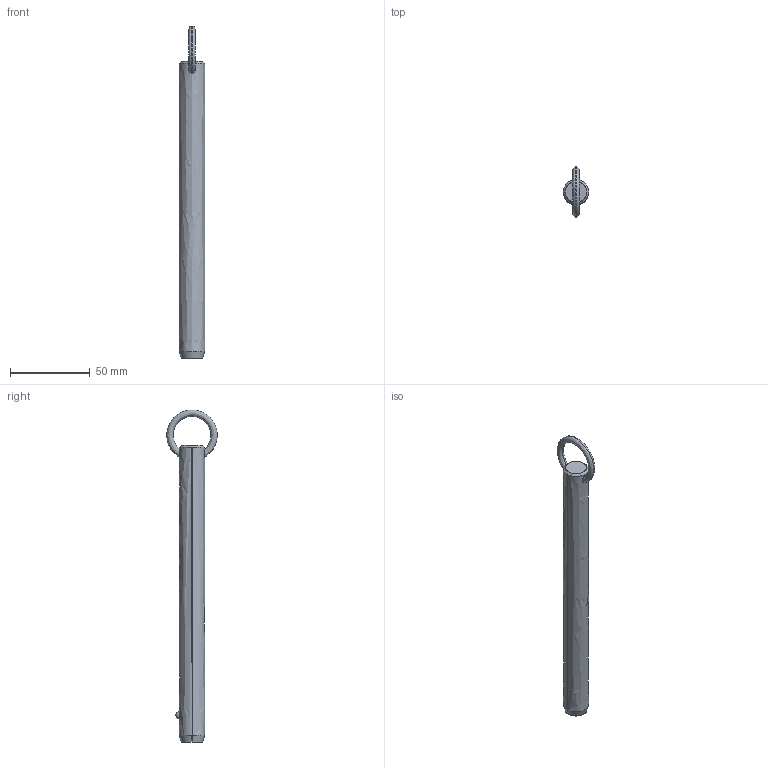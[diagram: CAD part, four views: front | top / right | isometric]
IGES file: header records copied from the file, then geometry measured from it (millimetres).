
Start section: SolidWorks IGES file using analytic representation for surfaces
Global section: file name: C:\Users\liam_\OneDrive\Documents\WORK\Work for WixRoyd\Job Files\J-00019 - Matt Davis CAD Checking\04. CAD Drawings\automotion20190605\P1250.2_v2\P1250.2_v2_20190729_IGES\P1250.062-620.igs; native system: SolidWorks 2017; preprocessor: SolidWorks 2017; author: liam_; date: 190729.234204; units: millimetre
Bounding box: 15.8 x 31.62 x 208.2 mm (x, y, z)
Surface area: 10406.4 mm2 (no closed solid volume)
Topology: 0 solids, 0 shells, 12 faces, 292 edges, 290 vertices
Faces by surface type: revolution 8, bspline 4
